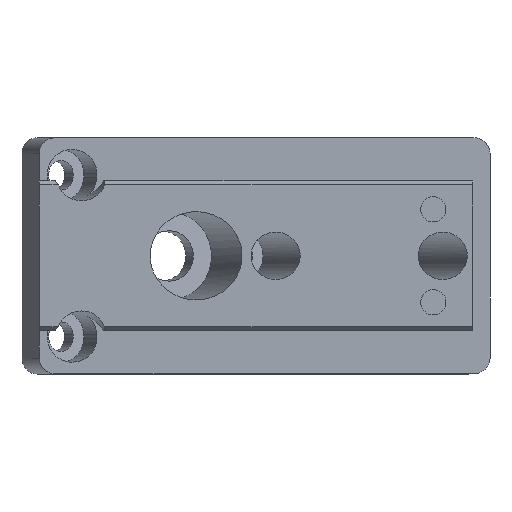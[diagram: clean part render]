
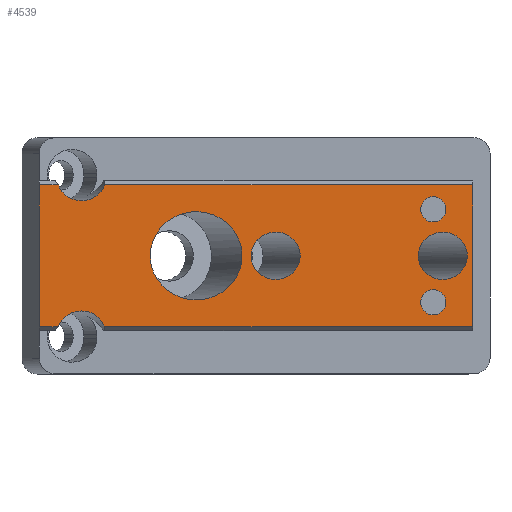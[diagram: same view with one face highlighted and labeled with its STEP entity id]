
A CAD part, top view. The second image highlights one B-rep face of the part: STEP entity #4539.
In plain terms, the highlighted planar face has unit normal (0, 0, 1).
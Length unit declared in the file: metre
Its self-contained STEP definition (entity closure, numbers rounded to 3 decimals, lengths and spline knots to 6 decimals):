
#222=ELLIPSE('',#4829,0.005826,0.0056);
#223=ELLIPSE('',#4830,0.003121,0.003);
#224=ELLIPSE('',#4831,0.003121,0.003);
#225=ELLIPSE('',#4834,0.003121,0.003);
#226=ELLIPSE('',#4835,0.003121,0.003);
#306=CIRCLE('',#4832,0.0016);
#307=CIRCLE('',#4833,0.0016);
#401=ORIENTED_EDGE('',*,*,#1779,.T.);
#402=ORIENTED_EDGE('',*,*,#1780,.T.);
#403=ORIENTED_EDGE('',*,*,#1781,.T.);
#404=ORIENTED_EDGE('',*,*,#1782,.T.);
#405=ORIENTED_EDGE('',*,*,#1783,.T.);
#406=ORIENTED_EDGE('',*,*,#1784,.F.);
#407=ORIENTED_EDGE('',*,*,#1785,.T.);
#408=ORIENTED_EDGE('',*,*,#1786,.F.);
#409=ORIENTED_EDGE('',*,*,#1787,.T.);
#410=ORIENTED_EDGE('',*,*,#1788,.F.);
#411=ORIENTED_EDGE('',*,*,#1789,.T.);
#412=ORIENTED_EDGE('',*,*,#1790,.T.);
#413=ORIENTED_EDGE('',*,*,#1791,.T.);
#1779=EDGE_CURVE('',#2468,#2468,#222,.T.);
#1780=EDGE_CURVE('',#2469,#2469,#223,.T.);
#1781=EDGE_CURVE('',#2470,#2470,#224,.T.);
#1782=EDGE_CURVE('',#2471,#2471,#306,.T.);
#1783=EDGE_CURVE('',#2472,#2472,#307,.T.);
#1784=EDGE_CURVE('',#2473,#2474,#225,.F.);
#1785=EDGE_CURVE('',#2473,#2475,#2913,.T.);
#1786=EDGE_CURVE('',#2476,#2475,#2914,.T.);
#1787=EDGE_CURVE('',#2476,#2477,#2915,.T.);
#1788=EDGE_CURVE('',#2478,#2477,#226,.F.);
#1789=EDGE_CURVE('',#2478,#2479,#2916,.T.);
#1790=EDGE_CURVE('',#2479,#2480,#2917,.T.);
#1791=EDGE_CURVE('',#2480,#2474,#2918,.T.);
#2468=VERTEX_POINT('',#6198);
#2469=VERTEX_POINT('',#6200);
#2470=VERTEX_POINT('',#6202);
#2471=VERTEX_POINT('',#6204);
#2472=VERTEX_POINT('',#6206);
#2473=VERTEX_POINT('',#6208);
#2474=VERTEX_POINT('',#6209);
#2475=VERTEX_POINT('',#6211);
#2476=VERTEX_POINT('',#6213);
#2477=VERTEX_POINT('',#6215);
#2478=VERTEX_POINT('',#6217);
#2479=VERTEX_POINT('',#6219);
#2480=VERTEX_POINT('',#6221);
#2913=LINE('',#6210,#3366);
#2914=LINE('',#6212,#3367);
#2915=LINE('',#6214,#3368);
#2916=LINE('',#6218,#3369);
#2917=LINE('',#6220,#3370);
#2918=LINE('',#6222,#3371);
#3366=VECTOR('',#5171,1.);
#3367=VECTOR('',#5172,1.);
#3368=VECTOR('',#5173,1.);
#3369=VECTOR('',#5176,1.);
#3370=VECTOR('',#5177,1.);
#3371=VECTOR('',#5178,1.);
#3806=EDGE_LOOP('',(#401));
#3807=EDGE_LOOP('',(#402));
#3808=EDGE_LOOP('',(#403));
#3809=EDGE_LOOP('',(#404));
#3810=EDGE_LOOP('',(#405));
#3811=EDGE_LOOP('',(#406,#407,#408,#409,#410,#411,#412,#413));
#4103=FACE_BOUND('',#3806,.T.);
#4104=FACE_BOUND('',#3807,.T.);
#4105=FACE_BOUND('',#3808,.T.);
#4106=FACE_BOUND('',#3809,.T.);
#4107=FACE_BOUND('',#3810,.T.);
#4108=FACE_BOUND('',#3811,.T.);
#4392=PLANE('',#4828);
#4539=ADVANCED_FACE('',(#4103,#4104,#4105,#4106,#4107,#4108),#4392,.F.);
#4828=AXIS2_PLACEMENT_3D('',#6196,#5157,#5158);
#4829=AXIS2_PLACEMENT_3D('',#6197,#5159,#5160);
#4830=AXIS2_PLACEMENT_3D('',#6199,#5161,#5162);
#4831=AXIS2_PLACEMENT_3D('',#6201,#5163,#5164);
#4832=AXIS2_PLACEMENT_3D('',#6203,#5165,#5166);
#4833=AXIS2_PLACEMENT_3D('',#6205,#5167,#5168);
#4834=AXIS2_PLACEMENT_3D('',#6207,#5169,#5170);
#4835=AXIS2_PLACEMENT_3D('',#6216,#5174,#5175);
#5157=DIRECTION('',(0.,0.,-1.));
#5158=DIRECTION('',(-1.,0.,0.));
#5159=DIRECTION('',(0.,0.,-1.));
#5160=DIRECTION('',(-1.,0.,0.));
#5161=DIRECTION('',(0.,0.,-1.));
#5162=DIRECTION('',(-1.,0.,0.));
#5163=DIRECTION('',(0.,0.,-1.));
#5164=DIRECTION('',(-1.,0.,0.));
#5165=DIRECTION('',(0.,0.,-1.));
#5166=DIRECTION('',(-1.,0.,0.));
#5167=DIRECTION('',(0.,0.,-1.));
#5168=DIRECTION('',(-1.,0.,0.));
#5169=DIRECTION('',(0.,0.,-1.));
#5170=DIRECTION('',(-1.,0.,0.));
#5171=DIRECTION('',(1.,0.,0.));
#5172=DIRECTION('',(0.,-1.,0.));
#5173=DIRECTION('',(-1.,0.,0.));
#5174=DIRECTION('',(0.,0.,-1.));
#5175=DIRECTION('',(-1.,0.,0.));
#5176=DIRECTION('',(-1.,0.,0.));
#5177=DIRECTION('',(0.,-1.,0.));
#5178=DIRECTION('',(1.,0.,0.));
#6196=CARTESIAN_POINT('',(0.055,0.,0.0041));
#6197=CARTESIAN_POINT('',(0.019901,0.,0.0041));
#6198=CARTESIAN_POINT('',(0.014075,0.,0.0041));
#6199=CARTESIAN_POINT('',(0.051214,0.,0.0041));
#6200=CARTESIAN_POINT('',(0.048093,0.,0.0041));
#6201=CARTESIAN_POINT('',(0.029992,0.,0.0041));
#6202=CARTESIAN_POINT('',(0.026871,0.,0.0041));
#6203=CARTESIAN_POINT('',(0.05,0.0059,0.0041));
#6204=CARTESIAN_POINT('',(0.0484,0.0059,0.0041));
#6205=CARTESIAN_POINT('',(0.05,-0.0059,0.0041));
#6206=CARTESIAN_POINT('',(0.0484,-0.0059,0.0041));
#6207=CARTESIAN_POINT('',(0.005337,-0.01,0.0041));
#6208=CARTESIAN_POINT('',(0.008281,-0.009004,0.0041));
#6209=CARTESIAN_POINT('',(0.002393,-0.009004,0.0041));
#6210=CARTESIAN_POINT('',(0.055,-0.009004,0.0041));
#6211=CARTESIAN_POINT('',(0.055,-0.009004,0.0041));
#6212=CARTESIAN_POINT('',(0.055,0.,0.0041));
#6213=CARTESIAN_POINT('',(0.055,0.009004,0.0041));
#6214=CARTESIAN_POINT('',(0.,0.009004,0.0041));
#6215=CARTESIAN_POINT('',(0.008281,0.009004,0.0041));
#6216=CARTESIAN_POINT('',(0.005337,0.01,0.0041));
#6217=CARTESIAN_POINT('',(0.002393,0.009004,0.0041));
#6218=CARTESIAN_POINT('',(0.,0.009004,0.0041));
#6219=CARTESIAN_POINT('',(0.,0.009004,0.0041));
#6220=CARTESIAN_POINT('',(0.,0.,0.0041));
#6221=CARTESIAN_POINT('',(0.,-0.009004,0.0041));
#6222=CARTESIAN_POINT('',(0.055,-0.009004,0.0041));
